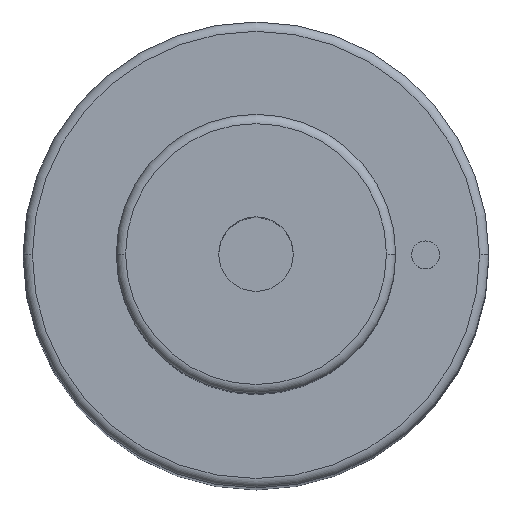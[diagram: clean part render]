
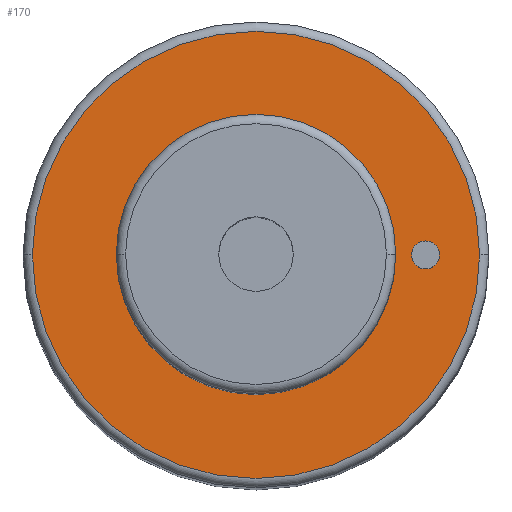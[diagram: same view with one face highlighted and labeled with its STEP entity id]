
A CAD part, top view. The second image highlights one B-rep face of the part: STEP entity #170.
In plain terms, the highlighted planar face has unit normal (0, 0, 1).
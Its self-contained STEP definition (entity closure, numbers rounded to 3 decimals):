
#115=PLANE('',#781);
#129=FACE_BOUND('',#277,.T.);
#130=FACE_BOUND('',#278,.T.);
#131=FACE_BOUND('',#279,.T.);
#170=ADVANCED_FACE('',(#129,#130,#131),#115,.T.);
#277=EDGE_LOOP('',(#483,#484));
#278=EDGE_LOOP('',(#485,#486));
#279=EDGE_LOOP('',(#487,#488));
#295=CIRCLE('',#712,15.);
#296=CIRCLE('',#714,15.);
#300=CIRCLE('',#719,24.);
#301=CIRCLE('',#721,24.);
#331=CIRCLE('',#779,1.5);
#332=CIRCLE('',#780,1.5);
#483=ORIENTED_EDGE('',*,*,#573,.F.);
#484=ORIENTED_EDGE('',*,*,#574,.F.);
#485=ORIENTED_EDGE('',*,*,#626,.F.);
#486=ORIENTED_EDGE('',*,*,#627,.F.);
#487=ORIENTED_EDGE('',*,*,#569,.T.);
#488=ORIENTED_EDGE('',*,*,#567,.T.);
#509=VERTEX_POINT('',#1042);
#510=VERTEX_POINT('',#1044);
#511=VERTEX_POINT('',#1050);
#514=VERTEX_POINT('',#1055);
#546=VERTEX_POINT('',#1170);
#547=VERTEX_POINT('',#1171);
#567=EDGE_CURVE('',#510,#509,#295,.T.);
#569=EDGE_CURVE('',#509,#510,#296,.T.);
#573=EDGE_CURVE('',#514,#511,#300,.T.);
#574=EDGE_CURVE('',#511,#514,#301,.T.);
#626=EDGE_CURVE('',#546,#547,#331,.T.);
#627=EDGE_CURVE('',#547,#546,#332,.T.);
#712=AXIS2_PLACEMENT_3D('',#1043,#832,#833);
#714=AXIS2_PLACEMENT_3D('',#1047,#837,#838);
#719=AXIS2_PLACEMENT_3D('',#1056,#847,#848);
#721=AXIS2_PLACEMENT_3D('',#1058,#851,#852);
#779=AXIS2_PLACEMENT_3D('',#1169,#989,#990);
#780=AXIS2_PLACEMENT_3D('',#1172,#991,#992);
#781=AXIS2_PLACEMENT_3D('',#1173,#993,#994);
#832=DIRECTION('',(0.,0.,-1.));
#833=DIRECTION('',(0.,1.,0.));
#837=DIRECTION('',(0.,0.,-1.));
#838=DIRECTION('',(0.,-1.,0.));
#847=DIRECTION('',(0.,0.,-1.));
#848=DIRECTION('',(0.,1.,0.));
#851=DIRECTION('',(0.,0.,-1.));
#852=DIRECTION('',(0.,-1.,0.));
#989=DIRECTION('',(0.,0.,1.));
#990=DIRECTION('',(0.,1.,0.));
#991=DIRECTION('',(0.,0.,1.));
#992=DIRECTION('',(0.,-1.,0.));
#993=DIRECTION('',(0.,0.,1.));
#994=DIRECTION('',(0.,-1.,0.));
#1042=CARTESIAN_POINT('',(-15.,0.,134.));
#1043=CARTESIAN_POINT('',(0.,0.,134.));
#1044=CARTESIAN_POINT('',(15.,0.,134.));
#1047=CARTESIAN_POINT('',(0.,0.,134.));
#1050=CARTESIAN_POINT('',(-24.,0.,134.));
#1055=CARTESIAN_POINT('',(24.,0.,134.));
#1056=CARTESIAN_POINT('',(0.,0.,134.));
#1058=CARTESIAN_POINT('',(0.,0.,134.));
#1169=CARTESIAN_POINT('',(18.2,0.,134.));
#1170=CARTESIAN_POINT('',(16.7,0.,134.));
#1171=CARTESIAN_POINT('',(19.7,0.,134.));
#1172=CARTESIAN_POINT('',(18.2,0.,134.));
#1173=CARTESIAN_POINT('',(0.,0.,134.));
